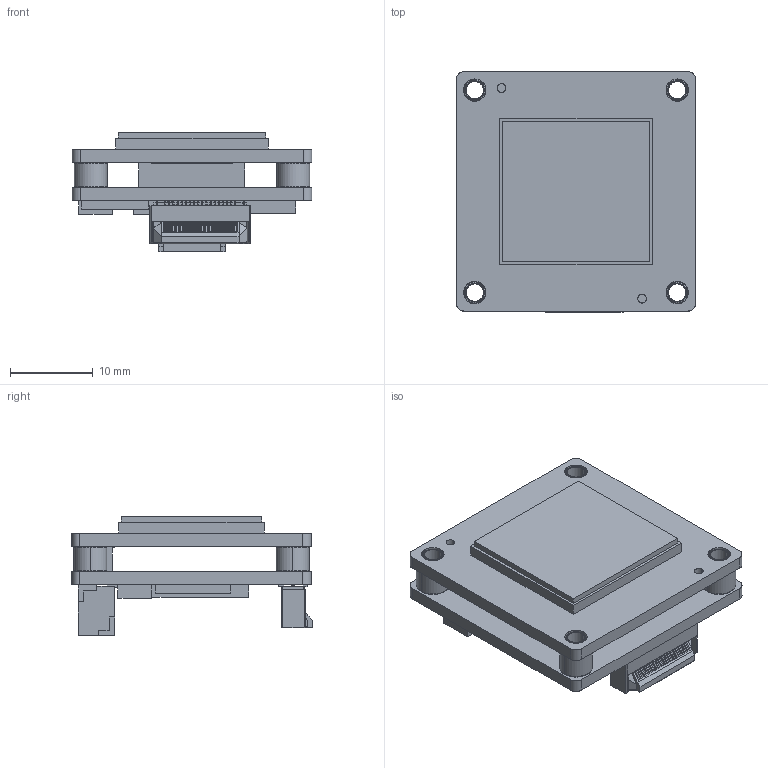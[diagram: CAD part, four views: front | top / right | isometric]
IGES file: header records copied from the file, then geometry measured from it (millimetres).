
Start section: SolidWorks IGES file using analytic representation for surfaces
Global section: file name: F:\mechanical\Documentation\BFS-BD\extracted files\BFS_BD-051-R0 steps\BFS-U3-50S5M(C)-BD2.IGS; native system: SolidWorks 2017; preprocessor: SolidWorks 2017; author: YXiang; date: 180928.142544; units: millimetre
Bounding box: 29 x 29.14 x 14.42 mm (x, y, z)
Surface area: 7419.8 mm2 (no closed solid volume)
Topology: 0 solids, 0 shells, 1058 faces, 7660 edges, 7655 vertices
Faces by surface type: bspline 836, revolution 222
